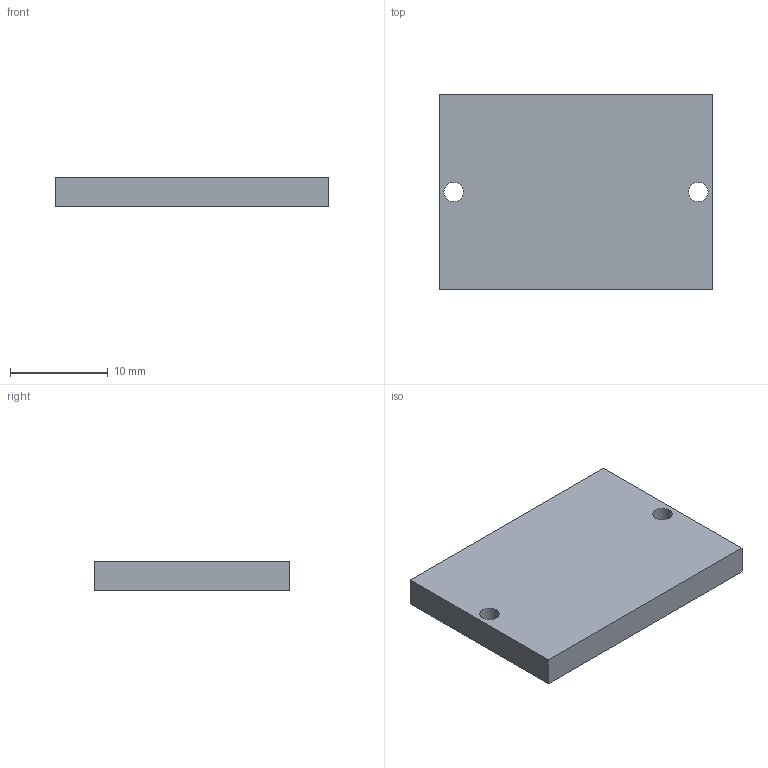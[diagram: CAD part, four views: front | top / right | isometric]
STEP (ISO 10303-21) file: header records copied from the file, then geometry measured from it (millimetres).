
FILE_DESCRIPTION(('Open CASCADE Model'),'2;1');
FILE_NAME('Open CASCADE Shape Model','2026-11-24T19:57:39',('Author'),( 'Open CASCADE'),'Open CASCADE STEP processor 7.8','Open CASCADE 7.8' ,'Unknown');
FILE_SCHEMA(('AUTOMOTIVE_DESIGN { 1 0 10303 214 1 1 1 1 }'));
Length unit declared in the file: millimetre
Products named in the file (1): Open CASCADE STEP translator 7.8 71
Bounding box: 28 x 20 x 3 mm (x, y, z)
Volume: 1661.2 mm3; surface area: 1433.1 mm2
Topology: 1 solids, 1 shells, 8 faces, 18 edges, 12 vertices
Faces by surface type: plane 6, cylinder 2
Full cylindrical faces by diameter (mm): 2 x2
Entity records: 476 total; most frequent: CARTESIAN_POINT 77, DIRECTION 74, LINE 44, VECTOR 44, ORIENTED_EDGE 36, PCURVE 36, DEFINITIONAL_REPRESENTATION 36, EDGE_CURVE 18
